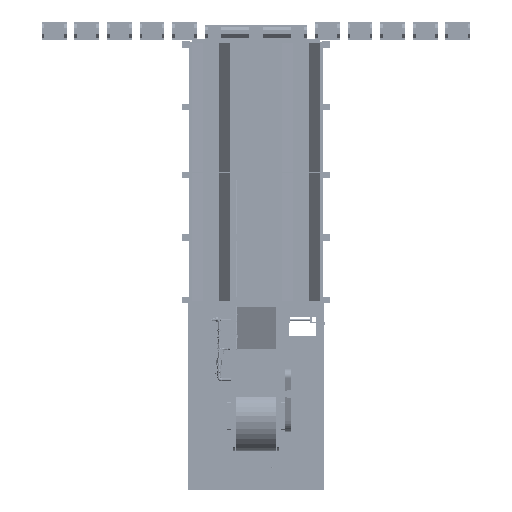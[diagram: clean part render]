
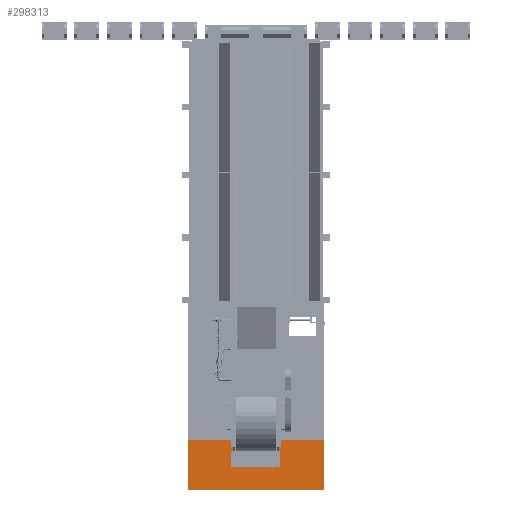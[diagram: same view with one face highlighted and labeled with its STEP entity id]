
A CAD part, front view. The second image highlights one B-rep face of the part: STEP entity #298313.
In plain terms, the highlighted planar face has unit normal (0, -1, 0) as drawn and (1, 0, 0) by its records, which use the part's own axes.
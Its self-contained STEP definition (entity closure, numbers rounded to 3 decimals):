
#58705=FACE_OUTER_BOUND('',#76424,.T.);
#76424=EDGE_LOOP('',(#264854,#264855,#264856,#264857));
#97160=LINE('',#722048,#119790);
#97196=LINE('',#722116,#119826);
#97208=LINE('',#722139,#119838);
#97209=LINE('',#722140,#119839);
#119790=VECTOR('',#391298,0.394);
#119826=VECTOR('',#391352,0.394);
#119838=VECTOR('',#391376,0.394);
#119839=VECTOR('',#391377,0.394);
#147035=VERTEX_POINT('',#722045);
#147036=VERTEX_POINT('',#722047);
#147059=VERTEX_POINT('',#722114);
#147064=VERTEX_POINT('',#722138);
#187001=EDGE_CURVE('',#147035,#147036,#97160,.T.);
#187037=EDGE_CURVE('',#147035,#147059,#97196,.T.);
#187049=EDGE_CURVE('',#147059,#147064,#97208,.T.);
#187050=EDGE_CURVE('',#147064,#147036,#97209,.T.);
#264854=ORIENTED_EDGE('',*,*,#187037,.T.);
#264855=ORIENTED_EDGE('',*,*,#187049,.T.);
#264856=ORIENTED_EDGE('',*,*,#187050,.T.);
#264857=ORIENTED_EDGE('',*,*,#187001,.F.);
#282768=PLANE('',#324331);
#298313=ADVANCED_FACE('',(#58705),#282768,.T.);
#324331=AXIS2_PLACEMENT_3D('',#722137,#391374,#391375);
#391298=DIRECTION('',(0.,0.,1.));
#391352=DIRECTION('',(0.,1.,0.));
#391374=DIRECTION('center_axis',(1.,0.,0.));
#391375=DIRECTION('ref_axis',(0.,0.,-1.));
#391376=DIRECTION('',(0.,0.,1.));
#391377=DIRECTION('',(0.,-1.,0.));
#722045=CARTESIAN_POINT('',(-0.125,-30.,101.063));
#722047=CARTESIAN_POINT('',(-0.125,-30.,137.75));
#722048=CARTESIAN_POINT('',(-0.125,-30.,0.));
#722114=CARTESIAN_POINT('',(-0.125,70.5,101.063));
#722116=CARTESIAN_POINT('',(-0.125,20.25,101.063));
#722137=CARTESIAN_POINT('Origin',(-0.125,70.5,0.));
#722138=CARTESIAN_POINT('',(-0.125,70.5,137.75));
#722139=CARTESIAN_POINT('',(-0.125,70.5,0.));
#722140=CARTESIAN_POINT('',(-0.125,-30.,137.75));
